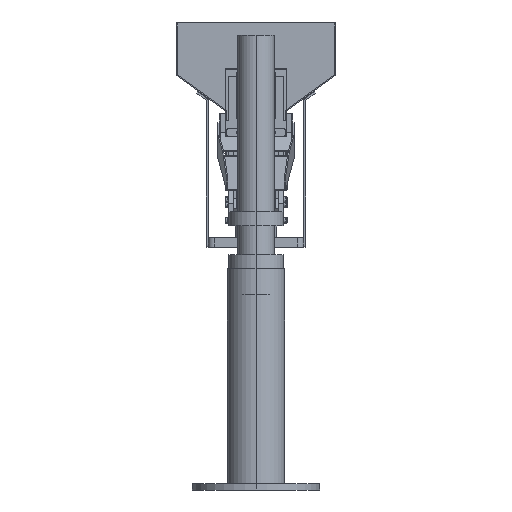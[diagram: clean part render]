
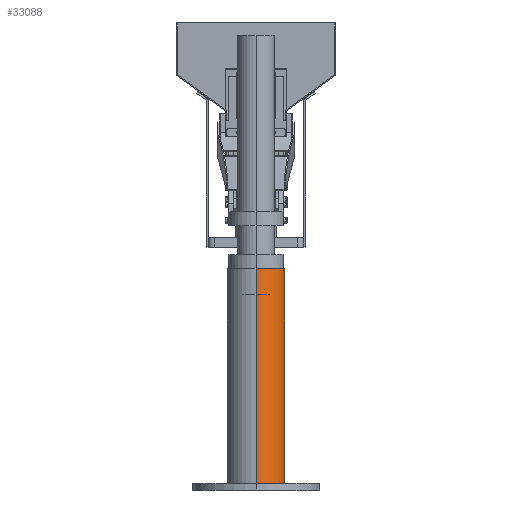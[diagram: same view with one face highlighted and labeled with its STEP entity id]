
A CAD part, left-side view. The second image highlights one B-rep face of the part: STEP entity #33088.
In plain terms, the highlighted cylindrical face has radius 44.75 mm (diameter 89.5 mm), a partial arc.
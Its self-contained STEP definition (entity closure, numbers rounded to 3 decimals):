
#25 = AXIS2_PLACEMENT_3D ( 'NONE', #6187, #14920, #12268 ) ;
#1096 = CARTESIAN_POINT ( 'NONE',  ( -1712.954, 51.391, 166.771 ) ) ;
#1397 = ORIENTED_EDGE ( 'NONE', *, *, #32918, .F. ) ;
#1721 = DIRECTION ( 'NONE',  ( 0., 0., -1. ) ) ;
#2458 = CIRCLE ( 'NONE', #11557, 44.75 ) ;
#2538 = ORIENTED_EDGE ( 'NONE', *, *, #14015, .T. ) ;
#3708 = CYLINDRICAL_SURFACE ( 'NONE', #25, 44.75 ) ;
#4005 = VECTOR ( 'NONE', #23332, 1000. ) ;
#4541 = EDGE_LOOP ( 'NONE', ( #1397, #21110, #36471, #2538 ) ) ;
#5300 = CARTESIAN_POINT ( 'NONE',  ( -1757.704, 51.391, 473.548 ) ) ;
#6187 = CARTESIAN_POINT ( 'NONE',  ( -1712.954, 51.391, 473.548 ) ) ;
#6374 = CARTESIAN_POINT ( 'NONE',  ( -1757.704, 51.391, 166.771 ) ) ;
#9321 = CARTESIAN_POINT ( 'NONE',  ( -1668.204, 51.391, 503.548 ) ) ;
#11557 = AXIS2_PLACEMENT_3D ( 'NONE', #30585, #1721, #22033 ) ;
#12268 = DIRECTION ( 'NONE',  ( -1., 0., 0. ) ) ;
#13075 = DIRECTION ( 'NONE',  ( -1., 0., 0. ) ) ;
#14015 = EDGE_CURVE ( 'NONE', #28717, #20575, #24713, .T. ) ;
#14920 = DIRECTION ( 'NONE',  ( 0., 0., -1. ) ) ;
#17758 = FACE_OUTER_BOUND ( 'NONE', #4541, .T. ) ;
#19162 = VERTEX_POINT ( 'NONE', #27449 ) ;
#20575 = VERTEX_POINT ( 'NONE', #23423 ) ;
#20992 = VERTEX_POINT ( 'NONE', #9321 ) ;
#21110 = ORIENTED_EDGE ( 'NONE', *, *, #34236, .T. ) ;
#22033 = DIRECTION ( 'NONE',  ( -1., 0., 0. ) ) ;
#23332 = DIRECTION ( 'NONE',  ( 0., 0., -1. ) ) ;
#23423 = CARTESIAN_POINT ( 'NONE',  ( -1668.204, 51.391, 166.771 ) ) ;
#24713 = CIRCLE ( 'NONE', #33801, 44.75 ) ;
#27072 = EDGE_CURVE ( 'NONE', #19162, #28717, #34532, .T. ) ;
#27129 = DIRECTION ( 'NONE',  ( 0., 0., 1. ) ) ;
#27449 = CARTESIAN_POINT ( 'NONE',  ( -1757.704, 51.391, 503.548 ) ) ;
#28717 = VERTEX_POINT ( 'NONE', #6374 ) ;
#28783 = CARTESIAN_POINT ( 'NONE',  ( -1668.204, 51.391, 473.548 ) ) ;
#30585 = CARTESIAN_POINT ( 'NONE',  ( -1712.954, 51.391, 503.548 ) ) ;
#31537 = VECTOR ( 'NONE', #35021, 1000. ) ;
#31800 = LINE ( 'NONE', #28783, #31537 ) ;
#32918 = EDGE_CURVE ( 'NONE', #20992, #20575, #31800, .T. ) ;
#33088 = ADVANCED_FACE ( 'NONE', ( #17758 ), #3708, .T. ) ;
#33801 = AXIS2_PLACEMENT_3D ( 'NONE', #1096, #27129, #13075 ) ;
#34236 = EDGE_CURVE ( 'NONE', #20992, #19162, #2458, .T. ) ;
#34532 = LINE ( 'NONE', #5300, #4005 ) ;
#35021 = DIRECTION ( 'NONE',  ( 0., 0., -1. ) ) ;
#36471 = ORIENTED_EDGE ( 'NONE', *, *, #27072, .T. ) ;
